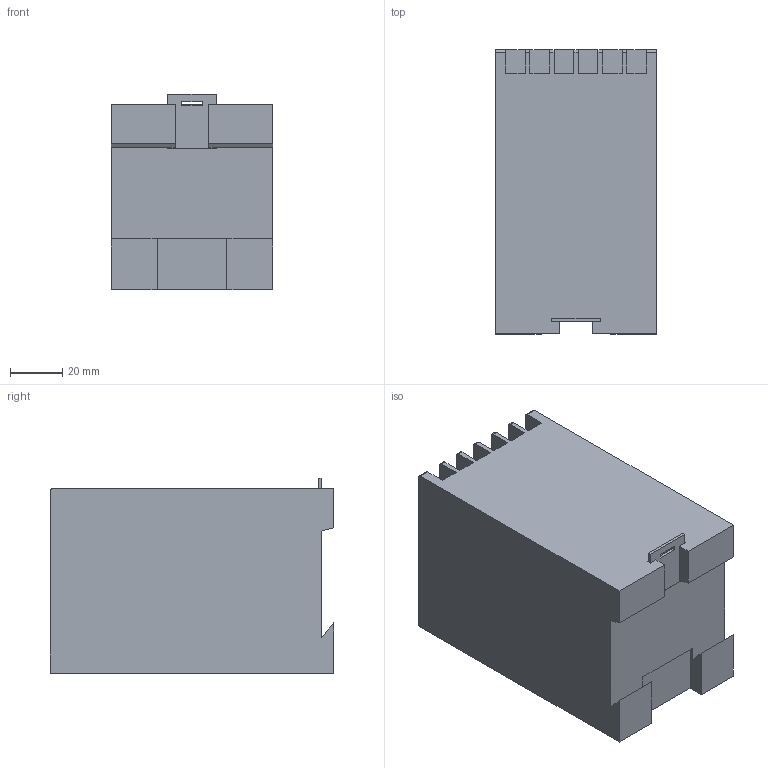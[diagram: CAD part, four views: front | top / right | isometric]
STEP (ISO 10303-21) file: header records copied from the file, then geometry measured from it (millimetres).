
FILE_DESCRIPTION(/* description */ (''),/* implementation_level */ '2;1');
FILE_NAME(/* name */ 'X:\Digidirect\CAD\Importierte Komponenten\X150\X150.stp',/* time_stamp */ '2013-10-10T11:20:53+02:00',/* author */ ('Maik Jost'),/* organization */ (''),/* preprocessor_version */ 'ST-DEVELOPER v15.2',/* originating_system */ 'Autodesk Inventor 2014',/* authorisation */ '');
FILE_SCHEMA (('CONFIG_CONTROL_DESIGN'));
Length unit declared in the file: millimetre
Products named in the file (1): X150
Bounding box: 62 x 109 x 75 mm (x, y, z)
Volume: 453680.9 mm3; surface area: 42247.5 mm2
Topology: 2 solids, 2 shells, 98 faces, 280 edges, 186 vertices
Faces by surface type: plane 84, cylinder 14
Entity records: 3178 total; most frequent: CARTESIAN_POINT 565, ORIENTED_EDGE 560, DIRECTION 506, EDGE_CURVE 280, LINE 252, VECTOR 252, VERTEX_POINT 186, AXIS2_PLACEMENT_3D 127
